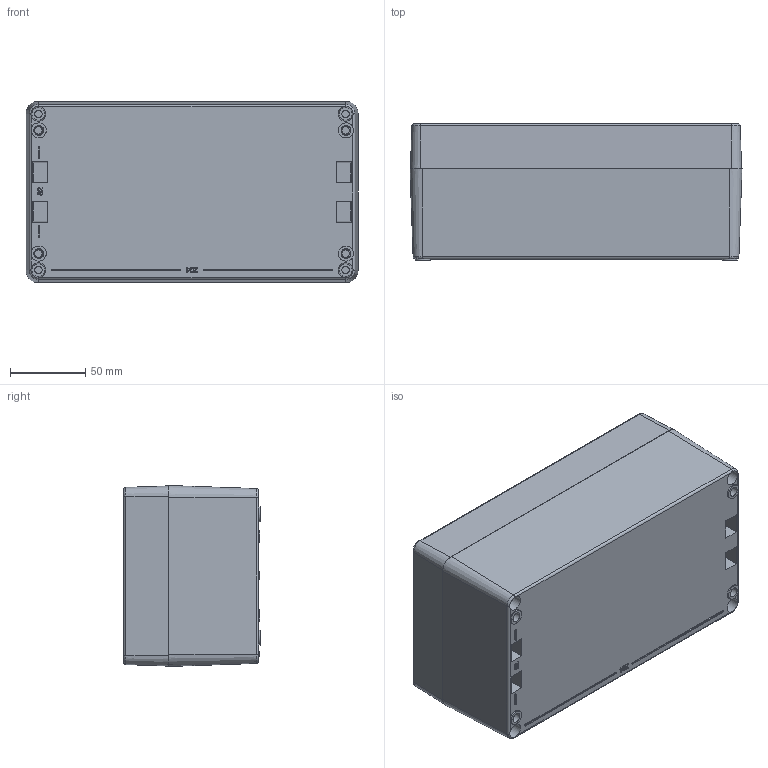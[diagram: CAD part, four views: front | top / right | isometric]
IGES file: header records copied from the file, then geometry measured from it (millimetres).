
Global section: file name: 1590Z155.iam; native system: Autodesk Inventor 2015; preprocessor: unknown; author: MBeerman; date: 20150420.084535; units: millimetre
Bounding box: 221 x 91 x 120.5 mm (x, y, z)
Volume: 582998.7 mm3; surface area: 293761.6 mm2
Topology: 8 solids, 8 shells, 702 faces, 1774 edges, 1154 vertices
Faces by surface type: plane 364, revolution 176, cone 68, bspline 58, cylinder 32, sphere 4
Full cylindrical faces by diameter (mm): 5.28 x4, 5.86 x4
